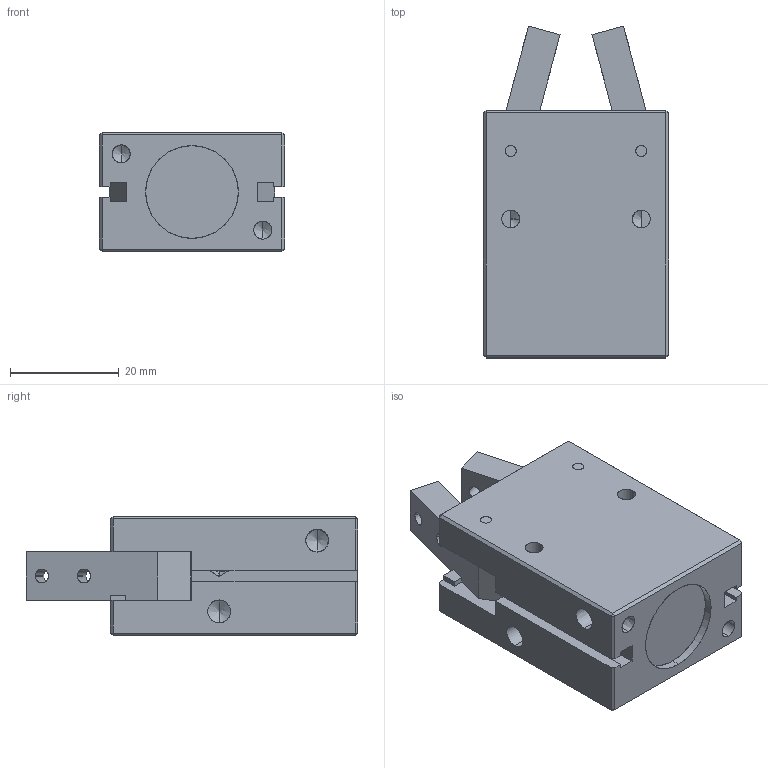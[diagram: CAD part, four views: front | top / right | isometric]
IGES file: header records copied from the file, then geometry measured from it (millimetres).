
Start section: SolidWorks IGES file using analytic representation for surfaces
Global section: file name: C:\Documents and Settings\SGA\Bureau\GDS.16\GDS.16-CLOSE.IGS; native system: SolidWorks 2010; preprocessor: SolidWorks 2010; author: SGA; date: 111020.134638; units: millimetre
Bounding box: 34 x 60.97 x 22 mm (x, y, z)
Surface area: 12902 mm2 (no closed solid volume)
Topology: 0 solids, 0 shells, 580 faces, 6651 edges, 6636 vertices
Faces by surface type: bspline 517, revolution 63
